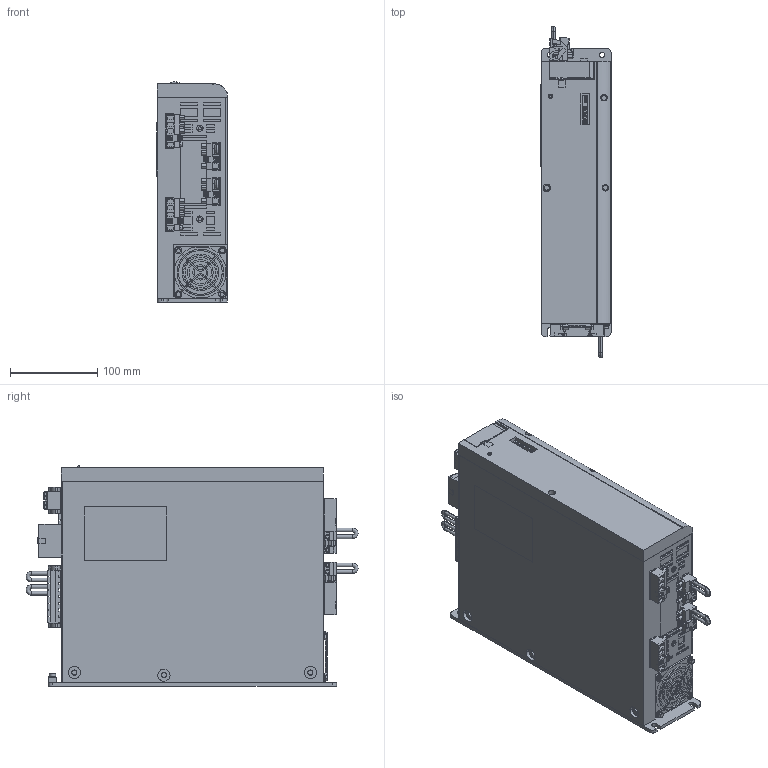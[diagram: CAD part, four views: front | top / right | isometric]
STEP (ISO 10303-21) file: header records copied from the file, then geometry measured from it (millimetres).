
FILE_DESCRIPTION (( 'STEP AP203' ), '1' );
FILE_NAME ('sgd7w_2r6d30b.STEP', '2016-11-07T00:25:14', ( '' ), ( '' ), 'SwSTEP 2.0', 'SolidWorks 2014', '' );
FILE_SCHEMA (( 'CONFIG_CONTROL_DESIGN' ));
Length unit declared in the file: millimetre
Products named in the file (11): sgd7w_2r6d30b_base; sgd7w_2r6d30b_cover; sgd7w_2r6d30b_connector6; sgd7w_2r6d30b_connector1; sgd7w_2r6d30b_jumper1; sgd7w_2r6d30b_connector2; sgd7w_2r6d30b_jumper2; sgd7w_2r6d30b_connector3; sgd7w_2r6d30b; sgd7w_2r6d30b_connector4; sgd7w_2r6d30b_connector5
Assembly tree (15 placements, depth 2):
  sgd7w_2r6d30b
    sgd7w_2r6d30b_base
    sgd7w_2r6d30b_cover
    sgd7w_2r6d30b_connector1  x2
    sgd7w_2r6d30b_connector2
    sgd7w_2r6d30b_connector3  x2
    sgd7w_2r6d30b_connector4
    sgd7w_2r6d30b_connector5  x2
    sgd7w_2r6d30b_connector6
    sgd7w_2r6d30b_jumper1  x2
    sgd7w_2r6d30b_jumper2  x2
Bounding box: 80.1 x 379.83 x 252 mm (x, y, z)
Volume: 5992791.9 mm3; surface area: 348144.6 mm2
Topology: 15 solids, 20 shells, 4611 faces, 12134 edges, 7998 vertices
Faces by surface type: plane 3807, cylinder 733, cone 54, bspline 17
Entity records: 129577 total; most frequent: CARTESIAN_POINT 23455, ORIENTED_EDGE 22044, DIRECTION 20651, EDGE_CURVE 11022, LINE 9597, VECTOR 9597, VERTEX_POINT 7266, AXIS2_PLACEMENT_3D 5527
